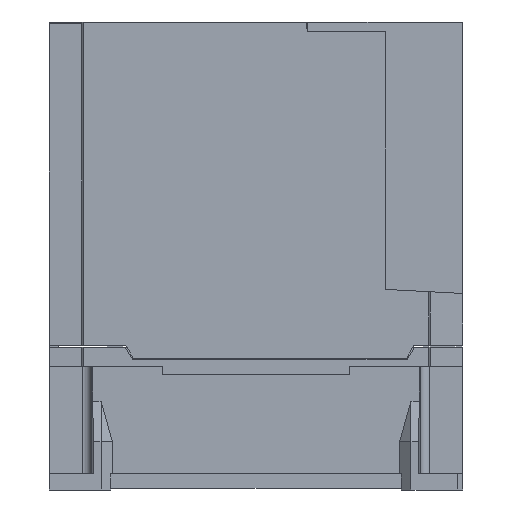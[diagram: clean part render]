
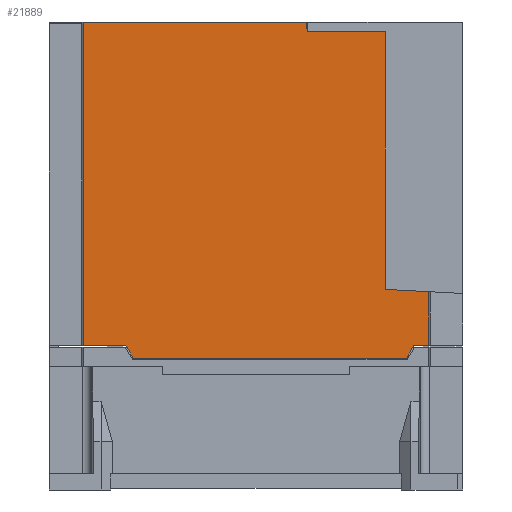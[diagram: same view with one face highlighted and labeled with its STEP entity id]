
A CAD part, left-side view. The second image highlights one B-rep face of the part: STEP entity #21889.
In plain terms, the highlighted planar face has unit normal (-1, 0, 0).
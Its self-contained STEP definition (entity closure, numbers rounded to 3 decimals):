
#4259=DIRECTION('',(0.,-1.,0.));
#4260=VECTOR('',#4259,4.54);
#4261=CARTESIAN_POINT('',(-54.,15.091,0.5));
#4262=LINE('',#4261,#4260);
#4263=DIRECTION('',(0.,-0.5,0.866));
#4264=VECTOR('',#4263,4.619);
#4265=CARTESIAN_POINT('',(-54.,17.4,-3.5));
#4266=LINE('',#4265,#4264);
#4267=DIRECTION('',(0.,-1.,0.));
#4268=VECTOR('',#4267,84.6);
#4269=CARTESIAN_POINT('',(-54.,102.,-3.5));
#4270=LINE('',#4269,#4268);
#4271=DIRECTION('',(0.,-0.5,-0.866));
#4272=VECTOR('',#4271,4.619);
#4273=CARTESIAN_POINT('',(-54.,104.309,0.5));
#4274=LINE('',#4273,#4272);
#4275=DIRECTION('',(0.,-1.,0.));
#4276=VECTOR('',#4275,13.14);
#4277=CARTESIAN_POINT('',(-54.,117.45,0.5));
#4278=LINE('',#4277,#4276);
#4279=DIRECTION('',(0.,0.,1.));
#4280=VECTOR('',#4279,100.2);
#4281=CARTESIAN_POINT('',(-54.,117.45,0.5));
#4282=LINE('',#4281,#4280);
#4283=DIRECTION('',(0.,-0.052,-0.999));
#4284=VECTOR('',#4283,3.004);
#4285=CARTESIAN_POINT('',(-54.,48.32,100.7));
#4286=LINE('',#4285,#4284);
#4287=DIRECTION('',(0.,1.,0.));
#4288=VECTOR('',#4287,24.162);
#4289=CARTESIAN_POINT('',(-54.,24.,97.7));
#4290=LINE('',#4289,#4288);
#4291=DIRECTION('',(0.,0.999,0.052));
#4292=VECTOR('',#4291,13.468);
#4293=CARTESIAN_POINT('',(-54.,10.55,17.153));
#4294=LINE('',#4293,#4292);
#4295=DIRECTION('',(0.,0.,1.));
#4296=VECTOR('',#4295,16.653);
#4297=CARTESIAN_POINT('',(-54.,10.55,0.5));
#4298=LINE('',#4297,#4296);
#4439=DIRECTION('',(0.,0.,1.));
#4440=VECTOR('',#4439,79.842);
#4441=CARTESIAN_POINT('',(-54.,24.,17.858));
#4442=LINE('',#4441,#4440);
#6345=DIRECTION('',(0.,-1.,0.));
#6346=VECTOR('',#6345,69.13);
#6347=CARTESIAN_POINT('',(-54.,117.45,100.7));
#6348=LINE('',#6347,#6346);
#12139=CARTESIAN_POINT('',(-54.,102.,-3.5));
#12140=CARTESIAN_POINT('',(-54.,17.4,-3.5));
#12141=VERTEX_POINT('',#12139);
#12142=VERTEX_POINT('',#12140);
#12151=CARTESIAN_POINT('',(-54.,15.091,0.5));
#12152=VERTEX_POINT('',#12151);
#12153=CARTESIAN_POINT('',(-54.,104.309,0.5));
#12154=VERTEX_POINT('',#12153);
#12175=CARTESIAN_POINT('',(-54.,24.,17.858));
#12176=VERTEX_POINT('',#12175);
#12231=CARTESIAN_POINT('',(-54.,117.45,0.5));
#12232=VERTEX_POINT('',#12231);
#12233=CARTESIAN_POINT('',(-54.,10.55,0.5));
#12234=VERTEX_POINT('',#12233);
#12468=CARTESIAN_POINT('',(-54.,10.55,17.153));
#12469=VERTEX_POINT('',#12468);
#12588=CARTESIAN_POINT('',(-54.,117.45,100.7));
#12589=CARTESIAN_POINT('',(-54.,48.32,100.7));
#12590=VERTEX_POINT('',#12588);
#12591=VERTEX_POINT('',#12589);
#12712=CARTESIAN_POINT('',(-54.,24.,97.7));
#12714=VERTEX_POINT('',#12712);
#12716=CARTESIAN_POINT('',(-54.,48.162,97.7));
#12717=VERTEX_POINT('',#12716);
#21862=CARTESIAN_POINT('',(-54.,128.,0.));
#21863=DIRECTION('',(-1.,0.,0.));
#21864=DIRECTION('',(0.,-1.,0.));
#21865=AXIS2_PLACEMENT_3D('',#21862,#21863,#21864);
#21866=PLANE('',#21865);
#21867=ORIENTED_EDGE('',*,*,#20356,.F.);
#21869=ORIENTED_EDGE('',*,*,#21868,.F.);
#21871=ORIENTED_EDGE('',*,*,#21870,.F.);
#21872=ORIENTED_EDGE('',*,*,#21848,.F.);
#21873=ORIENTED_EDGE('',*,*,#20425,.F.);
#21875=ORIENTED_EDGE('',*,*,#21874,.T.);
#21877=ORIENTED_EDGE('',*,*,#21876,.T.);
#21879=ORIENTED_EDGE('',*,*,#21878,.T.);
#21881=ORIENTED_EDGE('',*,*,#21880,.F.);
#21883=ORIENTED_EDGE('',*,*,#21882,.F.);
#21884=ORIENTED_EDGE('',*,*,#21001,.F.);
#21886=ORIENTED_EDGE('',*,*,#21885,.F.);
#21887=EDGE_LOOP('',(#21867,#21869,#21871,#21872,#21873,#21875,#21877,#21879,
#21881,#21883,#21884,#21886));
#21888=FACE_OUTER_BOUND('',#21887,.F.);
#21889=ADVANCED_FACE('',(#21888),#21866,.T.);
#20356=EDGE_CURVE('',#12152,#12234,#4262,.T.);
#20425=EDGE_CURVE('',#12232,#12154,#4278,.T.);
#21001=EDGE_CURVE('',#12469,#12176,#4294,.T.);
#21848=EDGE_CURVE('',#12154,#12141,#4274,.T.);
#21868=EDGE_CURVE('',#12142,#12152,#4266,.T.);
#21870=EDGE_CURVE('',#12141,#12142,#4270,.T.);
#21874=EDGE_CURVE('',#12232,#12590,#4282,.T.);
#21876=EDGE_CURVE('',#12590,#12591,#6348,.T.);
#21878=EDGE_CURVE('',#12591,#12717,#4286,.T.);
#21880=EDGE_CURVE('',#12714,#12717,#4290,.T.);
#21882=EDGE_CURVE('',#12176,#12714,#4442,.T.);
#21885=EDGE_CURVE('',#12234,#12469,#4298,.T.);
